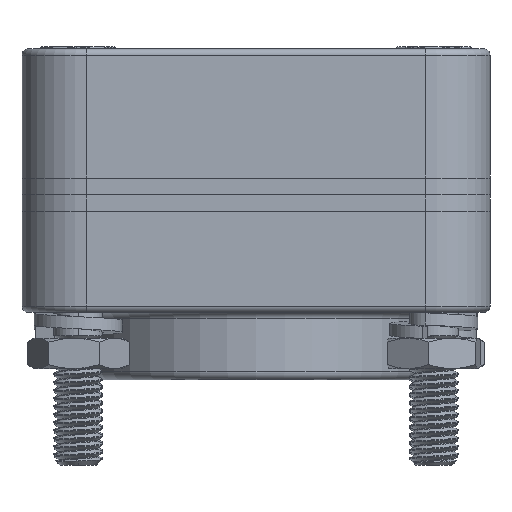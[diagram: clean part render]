
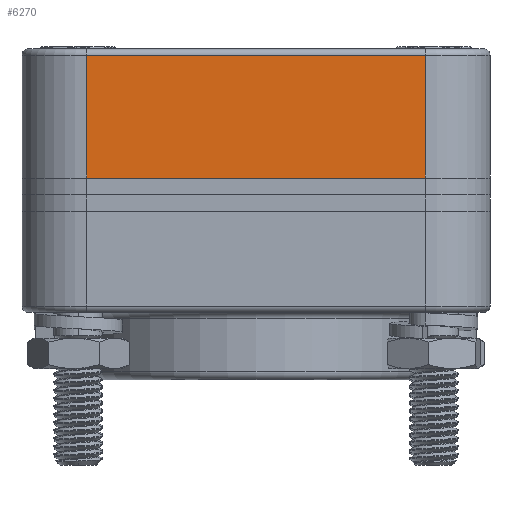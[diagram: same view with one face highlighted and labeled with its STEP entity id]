
A CAD part, left-side view. The second image highlights one B-rep face of the part: STEP entity #6270.
In plain terms, the highlighted planar face has unit normal (-1, 0, 0).
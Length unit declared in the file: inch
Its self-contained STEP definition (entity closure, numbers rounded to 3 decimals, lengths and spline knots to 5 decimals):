
#1454=VECTOR('',#7588,1.);
#1457=VECTOR('',#7601,1.);
#1458=VECTOR('',#7602,1.);
#1459=VECTOR('',#7603,1.);
#1744=LINE('',#57112,#1454);
#1747=LINE('',#57123,#1457);
#1748=LINE('',#57125,#1458);
#1749=LINE('',#57127,#1459);
#2148=PLANE('',#6687);
#2619=VERTEX_POINT('',#57097);
#2623=VERTEX_POINT('',#57109);
#2627=VERTEX_POINT('',#57124);
#2628=VERTEX_POINT('',#57126);
#3481=EDGE_CURVE('',#2619,#2623,#1744,.T.);
#3487=EDGE_CURVE('',#2627,#2619,#1747,.T.);
#3488=EDGE_CURVE('',#2627,#2628,#1748,.T.);
#3489=EDGE_CURVE('',#2628,#2623,#1749,.T.);
#4825=ORIENTED_EDGE('',*,*,#3481,.F.);
#4826=ORIENTED_EDGE('',*,*,#3487,.F.);
#4827=ORIENTED_EDGE('',*,*,#3488,.T.);
#4828=ORIENTED_EDGE('',*,*,#3489,.T.);
#5586=EDGE_LOOP('',(#4825,#4826,#4827,#4828));
#5946=FACE_BOUND('',#5586,.T.);
#6270=ADVANCED_FACE('',(#5946),#2148,.T.);
#6687=AXIS2_PLACEMENT_3D('',#57122,#7600,$);
#7588=DIRECTION('',(0.,-1.,0.));
#7600=DIRECTION('',(-1.,0.,0.));
#7601=DIRECTION('',(0.,0.,1.));
#7602=DIRECTION('',(0.,-1.,0.));
#7603=DIRECTION('',(0.,0.,1.));
#57097=CARTESIAN_POINT('',(-4.5974,3.3274,2.413));
#57109=CARTESIAN_POINT('',(-4.5974,-3.3274,2.413));
#57112=CARTESIAN_POINT('',(-4.5974,0.,2.413));
#57122=CARTESIAN_POINT('',(-4.5974,0.,0.));
#57123=CARTESIAN_POINT('',(-4.5974,3.3274,0.));
#57124=CARTESIAN_POINT('',(-4.5974,3.3274,0.));
#57125=CARTESIAN_POINT('',(-4.5974,3.3274,0.));
#57126=CARTESIAN_POINT('',(-4.5974,-3.3274,0.));
#57127=CARTESIAN_POINT('',(-4.5974,-3.3274,0.));
